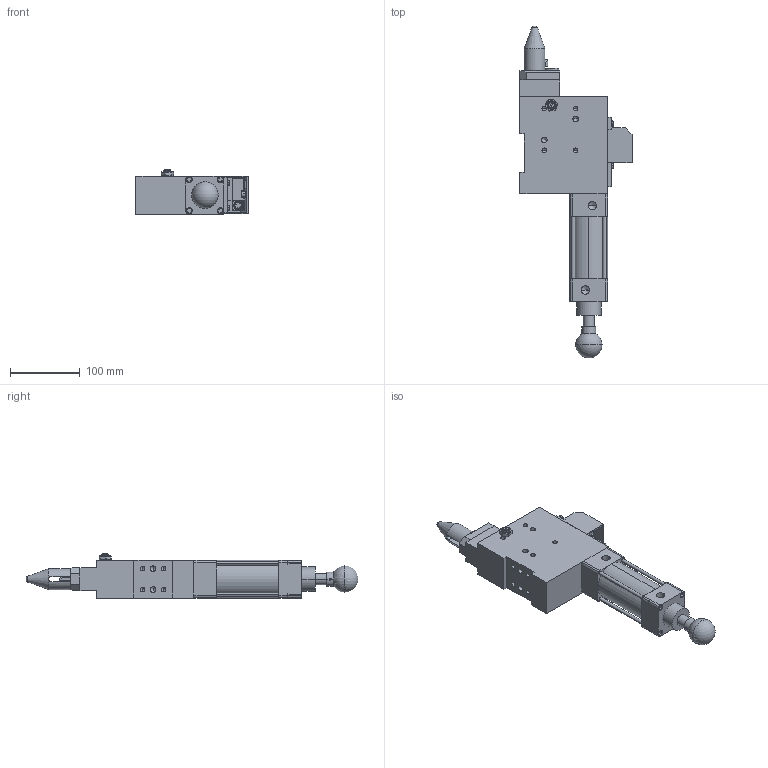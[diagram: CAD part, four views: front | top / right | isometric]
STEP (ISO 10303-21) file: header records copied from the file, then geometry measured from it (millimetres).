
FILE_DESCRIPTION((''),'2;1');
FILE_NAME('S:\Tom\INVENTOR FILES\AUTOMOTIVE\UNDERBODY CLAMPS\XLPV 16\XLPV30\DERIVED PARTS FOR SAT CONVERSION\XLPV 30-1-ES1-P-250-30.stp','2015-08-18T16:02:38',('Carl'),(''),'Autodesk Inventor 2013','Autodesk Inventor 2013','');
FILE_SCHEMA(('AUTOMOTIVE_DESIGN { 1 0 10303 214 1 1 1 1 }'));
Length unit declared in the file: millimetre
Products named in the file (3): Assembly2; Part3; Part5
Assembly tree (2 placements, depth 2):
  Assembly2
    Part3
    Part5
Bounding box: 161 x 476.46 x 63.5 mm (x, y, z)
Volume: 1708120.2 mm3; surface area: 178844.1 mm2
Topology: 6 solids, 6 shells, 593 faces, 1468 edges, 861 vertices
Faces by surface type: cylinder 250, plane 226, cone 52, sphere 35, bspline 28, torus 2
Full cylindrical faces by diameter (mm): 2.75 x1, 20 x1
Entity records: 17574 total; most frequent: CARTESIAN_POINT 3638, DIRECTION 3044, ORIENTED_EDGE 2766, EDGE_CURVE 1383, AXIS2_PLACEMENT_3D 1136, VERTEX_POINT 858, VECTOR 772, LINE 772
